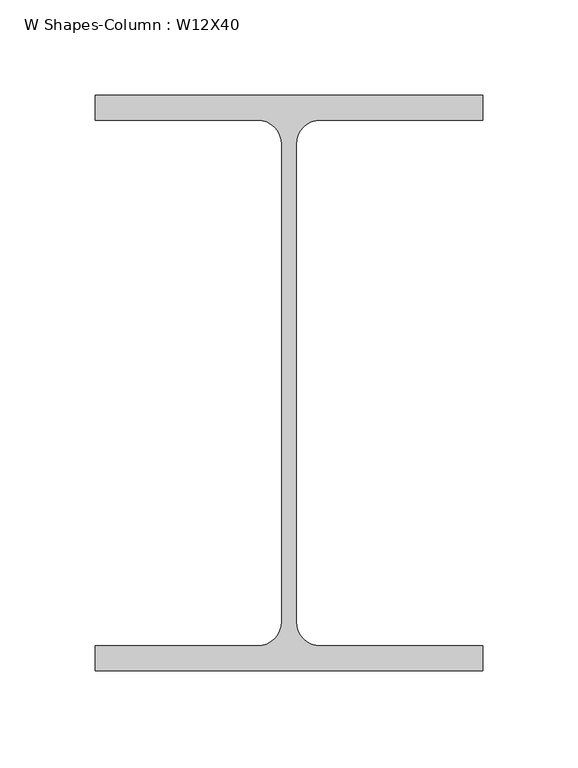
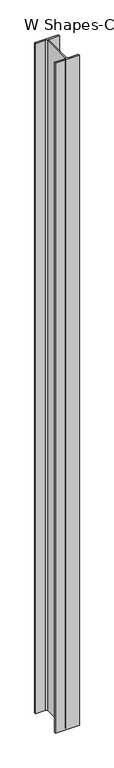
"""IFC4 building model written with IfcOpenShell, lengths in millimetres: column geometry, W Shapes-Column : W12X40."""

from ifc_helpers import new_model, si_unit, point, frame_2d, origin, origin_with_axes, place, context, project, spatial, polyline, circle_curve, trimmed, segment, composite_curve, outline, extrude, source, transform, mapped, element, save


def w_shapes_column_w12x40_08ec2019(model_context):
    return source(origin(), model_context, "Body", "SweptSolid", [
        extrude(outline(composite_curve([segment(polyline([(101.727, 151.13), (101.727, 138.049), (16.5735, 138.049)]), True, "CONTINUOUS"), segment(trimmed(circle_curve(frame_2d((16.5735, 125.222)), 12.827), [point((16.5735, 138.049))], [point((3.7465, 125.222))], True, "CARTESIAN"), True, "CONTINUOUS"), segment(polyline([(3.7465, 125.222), (3.7465, -125.222)]), True, "CONTINUOUS"), segment(trimmed(circle_curve(frame_2d((16.5735, -125.222)), 12.827), [point((3.7465, -125.222))], [point((16.5735, -138.049))], True, "CARTESIAN"), True, "CONTINUOUS"), segment(polyline([(16.5735, -138.049), (101.727, -138.049), (101.727, -151.13), (-101.727, -151.13), (-101.727, -138.049), (-16.5735, -138.049)]), True, "CONTINUOUS"), segment(trimmed(circle_curve(frame_2d((-16.5735, -125.222)), 12.827), [point((-16.5735, -138.049))], [point((-3.7465, -125.222))], True, "CARTESIAN"), True, "CONTINUOUS"), segment(polyline([(-3.7465, -125.222), (-3.7465, 125.222)]), True, "CONTINUOUS"), segment(trimmed(circle_curve(frame_2d((-16.5735, 125.222)), 12.827), [point((-3.7465, 125.222))], [point((-16.5735, 138.049))], True, "CARTESIAN"), True, "CONTINUOUS"), segment(polyline([(-16.5735, 138.049), (-101.727, 138.049), (-101.727, 151.13), (101.727, 151.13)]), True, "CONTINUOUS")], self_intersect=False)), origin_with_axes(), (0.0, 0.0, 1.0), 6000.0),
    ])


if __name__ == "__main__":
    model = new_model("IFC4")
    model_context = context("Model", 3, world=origin())
    ifc_project = project(units=[si_unit("LENGTHUNIT", "METRE", prefix="MILLI")], contexts=[model_context])
    site = spatial("IfcSite", under=ifc_project)
    building = spatial("IfcBuilding", under=site)
    placement = place(None, origin())
    w_shapes_column_w12x40_shape = w_shapes_column_w12x40_08ec2019(model_context)
    element("IfcColumn", 1, ObjectType="W Shapes-Column : W12X40", at=placement, inside=building, context=model_context, shape_type="MappedRepresentation", body=[
        mapped(w_shapes_column_w12x40_shape, transform((0.0, 0.0, 0.0), x_axis=(1.0, 0.0, 0.0), y_axis=(0.0, 1.0, 0.0), z_axis=(0.0, 0.0, 1.0))),
    ])
    save(model, "model.ifc")
